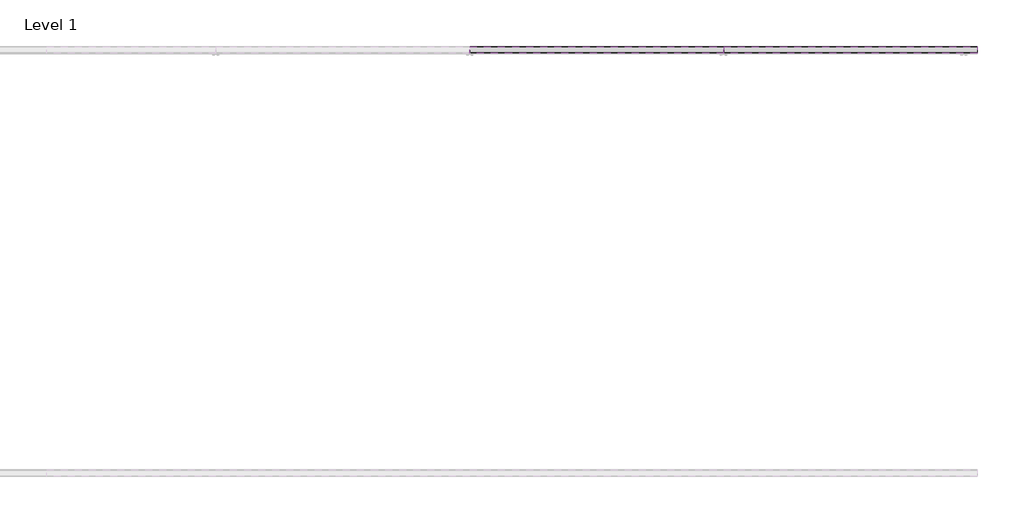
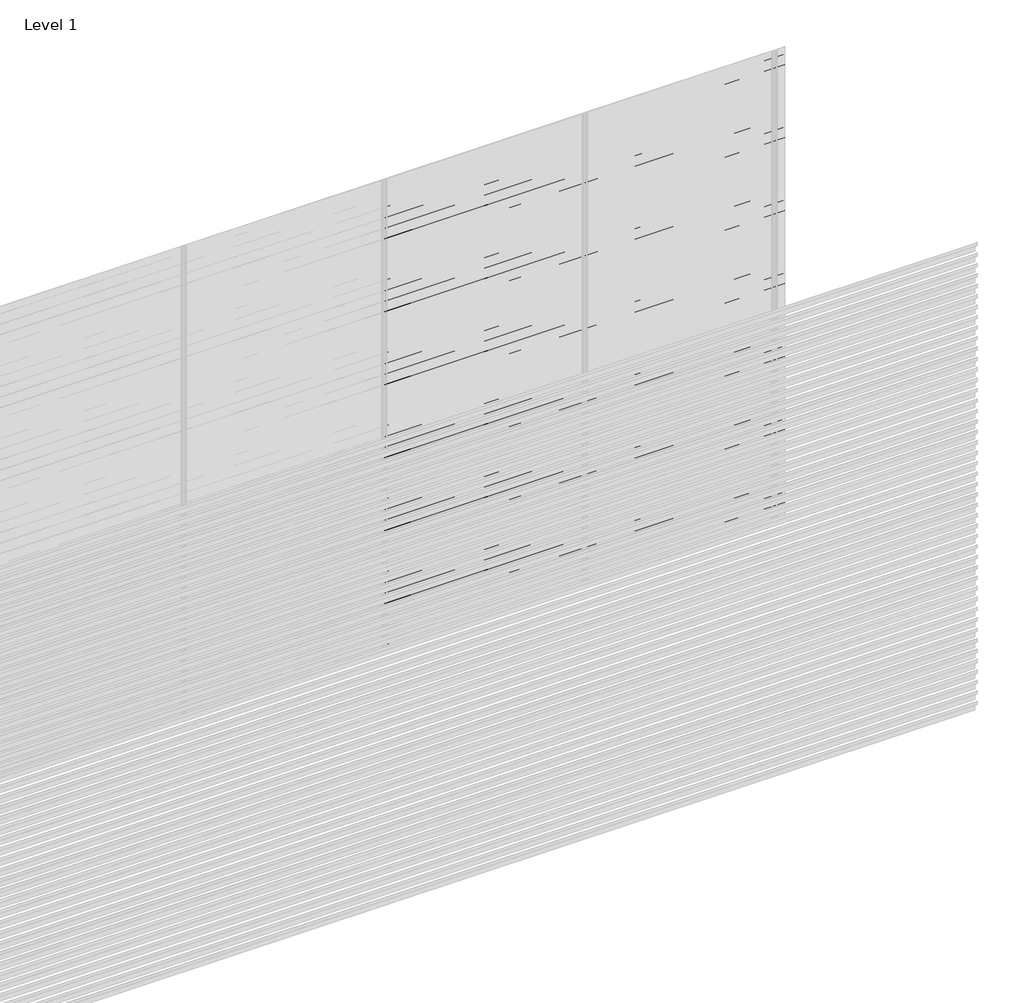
# One storey, part 33 of 33: 89 proxies.
"""IFC4 building model written with IfcOpenShell, lengths in millimetres."""

from ifc_helpers import new_model, si_unit, frame, origin, place, context, project, spatial, polyline, outline, extrude, element, save

model = new_model("IFC4")

# Units and contexts
model_context = context("Model", 3, world=origin())
ifc_project = project(units=[si_unit("LENGTHUNIT", "METRE", prefix="MILLI")], contexts=[model_context])

# Site, building, storey
site = spatial("IfcSite", under=ifc_project)
building = spatial("IfcBuilding", under=site)
storey = spatial("IfcBuildingStorey", under=building, Name="Level 1", Elevation=0.0)

# Proxies
placement = place(None, origin())
element("IfcBuildingElementProxy", 1, Name="Wall Sweeps", at=placement, inside=storey, context=model_context, shape_type="SweptSolid", body=[
    extrude(outline(polyline([(33.0, 2864.0), (33.0, 2831.0), (31.75, 2831.7216933), (31.75, 2863.2872415), (2.0, 2884.0588647), (2.0, 2904.0), (3.25, 2904.0), (3.25, 2884.7716232), (33.0, 2864.0)])), frame((3600.0, 0.0, 0.0), z_axis=(1.0, 0.0, 0.0), x_axis=(0.0, 1.0, 0.0)), (0.0, 0.0, 1.0), 1200.0),
])
element("IfcBuildingElementProxy", 2, Name="Wall Sweeps", at=placement, inside=storey, context=model_context, shape_type="SweptSolid", body=[
    extrude(outline(polyline([(33.0, 2798.0), (33.0, 2765.0), (31.75, 2765.7216933), (31.75, 2797.2872415), (2.0, 2818.0588647), (2.0, 2838.0), (3.25, 2838.0), (3.25, 2818.7716232), (33.0, 2798.0)])), frame((3600.0, 0.0, 0.0), z_axis=(1.0, 0.0, 0.0), x_axis=(0.0, 1.0, 0.0)), (0.0, 0.0, 1.0), 1200.0),
])
element("IfcBuildingElementProxy", 3, Name="Wall Sweeps", at=placement, inside=storey, context=model_context, shape_type="SweptSolid", body=[
    extrude(outline(polyline([(33.0, 2732.0), (33.0, 2699.0), (31.75, 2699.7216933), (31.75, 2731.2872415), (2.0, 2752.0588647), (2.0, 2772.0), (3.25, 2772.0), (3.25, 2752.7716232), (33.0, 2732.0)])), frame((3600.0, 0.0, 0.0), z_axis=(1.0, 0.0, 0.0), x_axis=(0.0, 1.0, 0.0)), (0.0, 0.0, 1.0), 1200.0),
])
element("IfcBuildingElementProxy", 4, Name="Wall Sweeps", at=placement, inside=storey, context=model_context, shape_type="SweptSolid", body=[
    extrude(outline(polyline([(33.0, 2666.0), (33.0, 2633.0), (31.75, 2633.7216933), (31.75, 2665.2872415), (2.0, 2686.0588647), (2.0, 2706.0), (3.25, 2706.0), (3.25, 2686.7716232), (33.0, 2666.0)])), frame((3600.0, 0.0, 0.0), z_axis=(1.0, 0.0, 0.0), x_axis=(0.0, 1.0, 0.0)), (0.0, 0.0, 1.0), 1200.0),
])
element("IfcBuildingElementProxy", 5, Name="Wall Sweeps", at=placement, inside=storey, context=model_context, shape_type="SweptSolid", body=[
    extrude(outline(polyline([(33.0, 2600.0), (33.0, 2567.0), (31.75, 2567.7216933), (31.75, 2599.2872415), (2.0, 2620.0588647), (2.0, 2640.0), (3.25, 2640.0), (3.25, 2620.7716232), (33.0, 2600.0)])), frame((3600.0, 0.0, 0.0), z_axis=(1.0, 0.0, 0.0), x_axis=(0.0, 1.0, 0.0)), (0.0, 0.0, 1.0), 1200.0),
])
element("IfcBuildingElementProxy", 6, Name="Wall Sweeps", at=placement, inside=storey, context=model_context, shape_type="SweptSolid", body=[
    extrude(outline(polyline([(33.0, 2534.0), (33.0, 2501.0), (31.75, 2501.7216933), (31.75, 2533.2872415), (2.0, 2554.0588647), (2.0, 2574.0), (3.25, 2574.0), (3.25, 2554.7716232), (33.0, 2534.0)])), frame((3600.0, 0.0, 0.0), z_axis=(1.0, 0.0, 0.0), x_axis=(0.0, 1.0, 0.0)), (0.0, 0.0, 1.0), 1200.0),
])
element("IfcBuildingElementProxy", 7, Name="Wall Sweeps", at=placement, inside=storey, context=model_context, shape_type="SweptSolid", body=[
    extrude(outline(polyline([(33.0, 2468.0), (33.0, 2435.0), (31.75, 2435.7216933), (31.75, 2467.2872415), (2.0, 2488.0588647), (2.0, 2508.0), (3.25, 2508.0), (3.25, 2488.7716232), (33.0, 2468.0)])), frame((3600.0, 0.0, 0.0), z_axis=(1.0, 0.0, 0.0), x_axis=(0.0, 1.0, 0.0)), (0.0, 0.0, 1.0), 1200.0),
])
element("IfcBuildingElementProxy", 8, Name="Wall Sweeps", at=placement, inside=storey, context=model_context, shape_type="SweptSolid", body=[
    extrude(outline(polyline([(33.0, 2402.0), (33.0, 2369.0), (31.75, 2369.7216933), (31.75, 2401.2872415), (2.0, 2422.0588647), (2.0, 2442.0), (3.25, 2442.0), (3.25, 2422.7716232), (33.0, 2402.0)])), frame((3600.0, 0.0, 0.0), z_axis=(1.0, 0.0, 0.0), x_axis=(0.0, 1.0, 0.0)), (0.0, 0.0, 1.0), 1200.0),
])
element("IfcBuildingElementProxy", 9, Name="Wall Sweeps", at=placement, inside=storey, context=model_context, shape_type="SweptSolid", body=[
    extrude(outline(polyline([(33.0, 2336.0), (33.0, 2303.0), (31.75, 2303.7216933), (31.75, 2335.2872415), (2.0, 2356.0588647), (2.0, 2376.0), (3.25, 2376.0), (3.25, 2356.7716232), (33.0, 2336.0)])), frame((3600.0, 0.0, 0.0), z_axis=(1.0, 0.0, 0.0), x_axis=(0.0, 1.0, 0.0)), (0.0, 0.0, 1.0), 1200.0),
])
element("IfcBuildingElementProxy", 10, Name="Wall Sweeps", at=placement, inside=storey, context=model_context, shape_type="SweptSolid", body=[
    extrude(outline(polyline([(33.0, 2270.0), (33.0, 2237.0), (31.75, 2237.7216933), (31.75, 2269.2872415), (2.0, 2290.0588647), (2.0, 2310.0), (3.25, 2310.0), (3.25, 2290.7716232), (33.0, 2270.0)])), frame((3600.0, 0.0, 0.0), z_axis=(1.0, 0.0, 0.0), x_axis=(0.0, 1.0, 0.0)), (0.0, 0.0, 1.0), 1200.0),
])
element("IfcBuildingElementProxy", 11, Name="Wall Sweeps", at=placement, inside=storey, context=model_context, shape_type="SweptSolid", body=[
    extrude(outline(polyline([(33.0, 2204.0), (33.0, 2171.0), (31.75, 2171.7216933), (31.75, 2203.2872415), (2.0, 2224.0588647), (2.0, 2244.0), (3.25, 2244.0), (3.25, 2224.7716232), (33.0, 2204.0)])), frame((3600.0, 0.0, 0.0), z_axis=(1.0, 0.0, 0.0), x_axis=(0.0, 1.0, 0.0)), (0.0, 0.0, 1.0), 1200.0),
])
element("IfcBuildingElementProxy", 12, Name="Wall Sweeps", at=placement, inside=storey, context=model_context, shape_type="SweptSolid", body=[
    extrude(outline(polyline([(33.0, 2138.0), (33.0, 2105.0), (31.75, 2105.7216933), (31.75, 2137.2872415), (2.0, 2158.0588647), (2.0, 2178.0), (3.25, 2178.0), (3.25, 2158.7716232), (33.0, 2138.0)])), frame((3600.0, 0.0, 0.0), z_axis=(1.0, 0.0, 0.0), x_axis=(0.0, 1.0, 0.0)), (0.0, 0.0, 1.0), 1200.0),
])
element("IfcBuildingElementProxy", 13, Name="Wall Sweeps", at=placement, inside=storey, context=model_context, shape_type="SweptSolid", body=[
    extrude(outline(polyline([(33.0, 2072.0), (33.0, 2039.0), (31.75, 2039.7216933), (31.75, 2071.2872415), (2.0, 2092.0588647), (2.0, 2112.0), (3.25, 2112.0), (3.25, 2092.7716232), (33.0, 2072.0)])), frame((3600.0, 0.0, 0.0), z_axis=(1.0, 0.0, 0.0), x_axis=(0.0, 1.0, 0.0)), (0.0, 0.0, 1.0), 1200.0),
])
element("IfcBuildingElementProxy", 14, Name="Wall Sweeps", at=placement, inside=storey, context=model_context, shape_type="SweptSolid", body=[
    extrude(outline(polyline([(33.0, 2006.0), (33.0, 1973.0), (31.75, 1973.7216933), (31.75, 2005.2872415), (2.0, 2026.0588647), (2.0, 2046.0), (3.25, 2046.0), (3.25, 2026.7716232), (33.0, 2006.0)])), frame((3600.0, 0.0, 0.0), z_axis=(1.0, 0.0, 0.0), x_axis=(0.0, 1.0, 0.0)), (0.0, 0.0, 1.0), 1200.0),
])
element("IfcBuildingElementProxy", 15, Name="Wall Sweeps", at=placement, inside=storey, context=model_context, shape_type="SweptSolid", body=[
    extrude(outline(polyline([(33.0, 1940.0), (33.0, 1907.0), (31.75, 1907.7216933), (31.75, 1939.2872415), (2.0, 1960.0588647), (2.0, 1980.0), (3.25, 1980.0), (3.25, 1960.7716232), (33.0, 1940.0)])), frame((3600.0, 0.0, 0.0), z_axis=(1.0, 0.0, 0.0), x_axis=(0.0, 1.0, 0.0)), (0.0, 0.0, 1.0), 1200.0),
])
element("IfcBuildingElementProxy", 16, Name="Wall Sweeps", at=placement, inside=storey, context=model_context, shape_type="SweptSolid", body=[
    extrude(outline(polyline([(33.0, 1874.0), (33.0, 1841.0), (31.75, 1841.7216933), (31.75, 1873.2872415), (2.0, 1894.0588647), (2.0, 1914.0), (3.25, 1914.0), (3.25, 1894.7716232), (33.0, 1874.0)])), frame((3600.0, 0.0, 0.0), z_axis=(1.0, 0.0, 0.0), x_axis=(0.0, 1.0, 0.0)), (0.0, 0.0, 1.0), 1200.0),
])
element("IfcBuildingElementProxy", 17, Name="Wall Sweeps", at=placement, inside=storey, context=model_context, shape_type="SweptSolid", body=[
    extrude(outline(polyline([(33.0, 1808.0), (33.0, 1775.0), (31.75, 1775.7216933), (31.75, 1807.2872415), (2.0, 1828.0588647), (2.0, 1848.0), (3.25, 1848.0), (3.25, 1828.7716232), (33.0, 1808.0)])), frame((3600.0, 0.0, 0.0), z_axis=(1.0, 0.0, 0.0), x_axis=(0.0, 1.0, 0.0)), (0.0, 0.0, 1.0), 1200.0),
])
element("IfcBuildingElementProxy", 18, Name="Wall Sweeps", at=placement, inside=storey, context=model_context, shape_type="SweptSolid", body=[
    extrude(outline(polyline([(33.0, 1742.0), (33.0, 1709.0), (31.75, 1709.7216933), (31.75, 1741.2872415), (2.0, 1762.0588647), (2.0, 1782.0), (3.25, 1782.0), (3.25, 1762.7716232), (33.0, 1742.0)])), frame((3600.0, 0.0, 0.0), z_axis=(1.0, 0.0, 0.0), x_axis=(0.0, 1.0, 0.0)), (0.0, 0.0, 1.0), 1200.0),
])
element("IfcBuildingElementProxy", 19, Name="Wall Sweeps", at=placement, inside=storey, context=model_context, shape_type="SweptSolid", body=[
    extrude(outline(polyline([(33.0, 1676.0), (33.0, 1643.0), (31.75, 1643.7216933), (31.75, 1675.2872415), (2.0, 1696.0588647), (2.0, 1716.0), (3.25, 1716.0), (3.25, 1696.7716232), (33.0, 1676.0)])), frame((3600.0, 0.0, 0.0), z_axis=(1.0, 0.0, 0.0), x_axis=(0.0, 1.0, 0.0)), (0.0, 0.0, 1.0), 1200.0),
])
element("IfcBuildingElementProxy", 20, Name="Wall Sweeps", at=placement, inside=storey, context=model_context, shape_type="SweptSolid", body=[
    extrude(outline(polyline([(33.0, 1610.0), (33.0, 1577.0), (31.75, 1577.7216933), (31.75, 1609.2872415), (2.0, 1630.0588647), (2.0, 1650.0), (3.25, 1650.0), (3.25, 1630.7716232), (33.0, 1610.0)])), frame((3600.0, 0.0, 0.0), z_axis=(1.0, 0.0, 0.0), x_axis=(0.0, 1.0, 0.0)), (0.0, 0.0, 1.0), 1200.0),
])
element("IfcBuildingElementProxy", 21, Name="Wall Sweeps", at=placement, inside=storey, context=model_context, shape_type="SweptSolid", body=[
    extrude(outline(polyline([(33.0, 1544.0), (33.0, 1511.0), (31.75, 1511.7216933), (31.75, 1543.2872415), (2.0, 1564.0588647), (2.0, 1584.0), (3.25, 1584.0), (3.25, 1564.7716232), (33.0, 1544.0)])), frame((3600.0, 0.0, 0.0), z_axis=(1.0, 0.0, 0.0), x_axis=(0.0, 1.0, 0.0)), (0.0, 0.0, 1.0), 1200.0),
])
element("IfcBuildingElementProxy", 22, Name="Wall Sweeps", at=placement, inside=storey, context=model_context, shape_type="SweptSolid", body=[
    extrude(outline(polyline([(33.0, 1478.0), (33.0, 1445.0), (31.75, 1445.7216933), (31.75, 1477.2872415), (2.0, 1498.0588647), (2.0, 1518.0), (3.25, 1518.0), (3.25, 1498.7716232), (33.0, 1478.0)])), frame((3600.0, 0.0, 0.0), z_axis=(1.0, 0.0, 0.0), x_axis=(0.0, 1.0, 0.0)), (0.0, 0.0, 1.0), 1200.0),
])
element("IfcBuildingElementProxy", 23, Name="Wall Sweeps", at=placement, inside=storey, context=model_context, shape_type="SweptSolid", body=[
    extrude(outline(polyline([(33.0, 1412.0), (33.0, 1379.0), (31.75, 1379.7216933), (31.75, 1411.2872415), (2.0, 1432.0588647), (2.0, 1452.0), (3.25, 1452.0), (3.25, 1432.7716232), (33.0, 1412.0)])), frame((3600.0, 0.0, 0.0), z_axis=(1.0, 0.0, 0.0), x_axis=(0.0, 1.0, 0.0)), (0.0, 0.0, 1.0), 1200.0),
])
element("IfcBuildingElementProxy", 24, Name="Wall Sweeps", at=placement, inside=storey, context=model_context, shape_type="SweptSolid", body=[
    extrude(outline(polyline([(33.0, 1346.0), (33.0, 1313.0), (31.75, 1313.7216933), (31.75, 1345.2872415), (2.0, 1366.0588647), (2.0, 1386.0), (3.25, 1386.0), (3.25, 1366.7716232), (33.0, 1346.0)])), frame((3600.0, 0.0, 0.0), z_axis=(1.0, 0.0, 0.0), x_axis=(0.0, 1.0, 0.0)), (0.0, 0.0, 1.0), 1200.0),
])
element("IfcBuildingElementProxy", 25, Name="Wall Sweeps", at=placement, inside=storey, context=model_context, shape_type="SweptSolid", body=[
    extrude(outline(polyline([(33.0, 1280.0), (33.0, 1247.0), (31.75, 1247.7216933), (31.75, 1279.2872415), (2.0, 1300.0588647), (2.0, 1320.0), (3.25, 1320.0), (3.25, 1300.7716232), (33.0, 1280.0)])), frame((3600.0, 0.0, 0.0), z_axis=(1.0, 0.0, 0.0), x_axis=(0.0, 1.0, 0.0)), (0.0, 0.0, 1.0), 1200.0),
])
element("IfcBuildingElementProxy", 26, Name="Wall Sweeps", at=placement, inside=storey, context=model_context, shape_type="SweptSolid", body=[
    extrude(outline(polyline([(33.0, 1214.0), (33.0, 1181.0), (31.75, 1181.7216933), (31.75, 1213.2872415), (2.0, 1234.0588647), (2.0, 1254.0), (3.25, 1254.0), (3.25, 1234.7716232), (33.0, 1214.0)])), frame((3600.0, 0.0, 0.0), z_axis=(1.0, 0.0, 0.0), x_axis=(0.0, 1.0, 0.0)), (0.0, 0.0, 1.0), 1200.0),
])
element("IfcBuildingElementProxy", 27, Name="Wall Sweeps", at=placement, inside=storey, context=model_context, shape_type="SweptSolid", body=[
    extrude(outline(polyline([(33.0, 1148.0), (33.0, 1115.0), (31.75, 1115.7216933), (31.75, 1147.2872415), (2.0, 1168.0588647), (2.0, 1188.0), (3.25, 1188.0), (3.25, 1168.7716232), (33.0, 1148.0)])), frame((3600.0, 0.0, 0.0), z_axis=(1.0, 0.0, 0.0), x_axis=(0.0, 1.0, 0.0)), (0.0, 0.0, 1.0), 1200.0),
])
element("IfcBuildingElementProxy", 28, Name="Wall Sweeps", at=placement, inside=storey, context=model_context, shape_type="SweptSolid", body=[
    extrude(outline(polyline([(33.0, 1082.0), (33.0, 1049.0), (31.75, 1049.7216933), (31.75, 1081.2872415), (2.0, 1102.0588647), (2.0, 1122.0), (3.25, 1122.0), (3.25, 1102.7716232), (33.0, 1082.0)])), frame((3600.0, 0.0, 0.0), z_axis=(1.0, 0.0, 0.0), x_axis=(0.0, 1.0, 0.0)), (0.0, 0.0, 1.0), 1200.0),
])
element("IfcBuildingElementProxy", 29, Name="Wall Sweeps", at=placement, inside=storey, context=model_context, shape_type="SweptSolid", body=[
    extrude(outline(polyline([(33.0, 1016.0), (33.0, 983.0), (31.75, 983.7216933), (31.75, 1015.2872415), (2.0, 1036.0588647), (2.0, 1056.0), (3.25, 1056.0), (3.25, 1036.7716232), (33.0, 1016.0)])), frame((3600.0, 0.0, 0.0), z_axis=(1.0, 0.0, 0.0), x_axis=(0.0, 1.0, 0.0)), (0.0, 0.0, 1.0), 1200.0),
])
element("IfcBuildingElementProxy", 30, Name="Wall Sweeps", at=placement, inside=storey, context=model_context, shape_type="SweptSolid", body=[
    extrude(outline(polyline([(33.0, 950.0), (33.0, 917.0), (31.75, 917.7216933), (31.75, 949.2872415), (2.0, 970.0588647), (2.0, 990.0), (3.25, 990.0), (3.25, 970.7716232), (33.0, 950.0)])), frame((3600.0, 0.0, 0.0), z_axis=(1.0, 0.0, 0.0), x_axis=(0.0, 1.0, 0.0)), (0.0, 0.0, 1.0), 1200.0),
])
element("IfcBuildingElementProxy", 31, Name="Wall Sweeps", at=placement, inside=storey, context=model_context, shape_type="SweptSolid", body=[
    extrude(outline(polyline([(33.0, 884.0), (33.0, 851.0), (31.75, 851.7216933), (31.75, 883.2872415), (2.0, 904.0588647), (2.0, 924.0), (3.25, 924.0), (3.25, 904.7716232), (33.0, 884.0)])), frame((3600.0, 0.0, 0.0), z_axis=(1.0, 0.0, 0.0), x_axis=(0.0, 1.0, 0.0)), (0.0, 0.0, 1.0), 1200.0),
])
element("IfcBuildingElementProxy", 32, Name="Wall Sweeps", at=placement, inside=storey, context=model_context, shape_type="SweptSolid", body=[
    extrude(outline(polyline([(33.0, 818.0), (33.0, 785.0), (31.75, 785.7216933), (31.75, 817.2872415), (2.0, 838.0588647), (2.0, 858.0), (3.25, 858.0), (3.25, 838.7716232), (33.0, 818.0)])), frame((3600.0, 0.0, 0.0), z_axis=(1.0, 0.0, 0.0), x_axis=(0.0, 1.0, 0.0)), (0.0, 0.0, 1.0), 1200.0),
])
element("IfcBuildingElementProxy", 33, Name="Wall Sweeps", at=placement, inside=storey, context=model_context, shape_type="SweptSolid", body=[
    extrude(outline(polyline([(33.0, 752.0), (33.0, 719.0), (31.75, 719.7216933), (31.75, 751.2872415), (2.0, 772.0588647), (2.0, 792.0), (3.25, 792.0), (3.25, 772.7716232), (33.0, 752.0)])), frame((3600.0, 0.0, 0.0), z_axis=(1.0, 0.0, 0.0), x_axis=(0.0, 1.0, 0.0)), (0.0, 0.0, 1.0), 1200.0),
])
element("IfcBuildingElementProxy", 34, Name="Wall Sweeps", at=placement, inside=storey, context=model_context, shape_type="SweptSolid", body=[
    extrude(outline(polyline([(33.0, 686.0), (33.0, 653.0), (31.75, 653.7216933), (31.75, 685.2872415), (2.0, 706.0588647), (2.0, 726.0), (3.25, 726.0), (3.25, 706.7716232), (33.0, 686.0)])), frame((3600.0, 0.0, 0.0), z_axis=(1.0, 0.0, 0.0), x_axis=(0.0, 1.0, 0.0)), (0.0, 0.0, 1.0), 1200.0),
])
element("IfcBuildingElementProxy", 35, Name="Wall Sweeps", at=placement, inside=storey, context=model_context, shape_type="SweptSolid", body=[
    extrude(outline(polyline([(33.0, 620.0), (33.0, 587.0), (31.75, 587.7216933), (31.75, 619.2872415), (2.0, 640.0588647), (2.0, 660.0), (3.25, 660.0), (3.25, 640.7716232), (33.0, 620.0)])), frame((3600.0, 0.0, 0.0), z_axis=(1.0, 0.0, 0.0), x_axis=(0.0, 1.0, 0.0)), (0.0, 0.0, 1.0), 1200.0),
])
element("IfcBuildingElementProxy", 36, Name="Wall Sweeps", at=placement, inside=storey, context=model_context, shape_type="SweptSolid", body=[
    extrude(outline(polyline([(33.0, 554.0), (33.0, 521.0), (31.75, 521.7216933), (31.75, 553.2872415), (2.0, 574.0588647), (2.0, 594.0), (3.25, 594.0), (3.25, 574.7716232), (33.0, 554.0)])), frame((3600.0, 0.0, 0.0), z_axis=(1.0, 0.0, 0.0), x_axis=(0.0, 1.0, 0.0)), (0.0, 0.0, 1.0), 1200.0),
])
element("IfcBuildingElementProxy", 37, Name="Wall Sweeps", at=placement, inside=storey, context=model_context, shape_type="SweptSolid", body=[
    extrude(outline(polyline([(33.0, 488.0), (33.0, 455.0), (31.75, 455.7216933), (31.75, 487.2872415), (2.0, 508.0588647), (2.0, 528.0), (3.25, 528.0), (3.25, 508.7716232), (33.0, 488.0)])), frame((3600.0, 0.0, 0.0), z_axis=(1.0, 0.0, 0.0), x_axis=(0.0, 1.0, 0.0)), (0.0, 0.0, 1.0), 1200.0),
])
element("IfcBuildingElementProxy", 38, Name="Wall Sweeps", at=placement, inside=storey, context=model_context, shape_type="SweptSolid", body=[
    extrude(outline(polyline([(33.0, 422.0), (33.0, 389.0), (31.75, 389.7216933), (31.75, 421.2872415), (2.0, 442.0588647), (2.0, 462.0), (3.25, 462.0), (3.25, 442.7716232), (33.0, 422.0)])), frame((3600.0, 0.0, 0.0), z_axis=(1.0, 0.0, 0.0), x_axis=(0.0, 1.0, 0.0)), (0.0, 0.0, 1.0), 1200.0),
])
element("IfcBuildingElementProxy", 39, Name="Wall Sweeps", at=placement, inside=storey, context=model_context, shape_type="SweptSolid", body=[
    extrude(outline(polyline([(33.0, 356.0), (33.0, 323.0), (31.75, 323.7216933), (31.75, 355.2872415), (2.0, 376.0588647), (2.0, 396.0), (3.25, 396.0), (3.25, 376.7716232), (33.0, 356.0)])), frame((3600.0, 0.0, 0.0), z_axis=(1.0, 0.0, 0.0), x_axis=(0.0, 1.0, 0.0)), (0.0, 0.0, 1.0), 1200.0),
])
element("IfcBuildingElementProxy", 40, Name="Wall Sweeps", at=placement, inside=storey, context=model_context, shape_type="SweptSolid", body=[
    extrude(outline(polyline([(33.0, 290.0), (33.0, 257.0), (31.75, 257.7216933), (31.75, 289.2872415), (2.0, 310.0588647), (2.0, 330.0), (3.25, 330.0), (3.25, 310.7716232), (33.0, 290.0)])), frame((3600.0, 0.0, 0.0), z_axis=(1.0, 0.0, 0.0), x_axis=(0.0, 1.0, 0.0)), (0.0, 0.0, 1.0), 1200.0),
])
element("IfcBuildingElementProxy", 41, Name="Wall Sweeps", at=placement, inside=storey, context=model_context, shape_type="SweptSolid", body=[
    extrude(outline(polyline([(33.0, 224.0), (33.0, 191.0), (31.75, 191.7216933), (31.75, 223.2872415), (2.0, 244.0588647), (2.0, 264.0), (3.25, 264.0), (3.25, 244.7716232), (33.0, 224.0)])), frame((3600.0, 0.0, 0.0), z_axis=(1.0, 0.0, 0.0), x_axis=(0.0, 1.0, 0.0)), (0.0, 0.0, 1.0), 1200.0),
])
element("IfcBuildingElementProxy", 42, Name="Wall Sweeps", at=placement, inside=storey, context=model_context, shape_type="SweptSolid", body=[
    extrude(outline(polyline([(33.0, 158.0), (33.0, 125.0), (31.75, 125.7216933), (31.75, 157.2872415), (2.0, 178.0588647), (2.0, 198.0), (3.25, 198.0), (3.25, 178.7716232), (33.0, 158.0)])), frame((3600.0, 0.0, 0.0), z_axis=(1.0, 0.0, 0.0), x_axis=(0.0, 1.0, 0.0)), (0.0, 0.0, 1.0), 1200.0),
])
element("IfcBuildingElementProxy", 43, Name="Wall Sweeps", at=placement, inside=storey, context=model_context, shape_type="SweptSolid", body=[
    extrude(outline(polyline([(33.0, 92.0), (33.0, 59.0), (31.75, 59.7216933), (31.75, 91.2872415), (2.0, 112.0588647), (2.0, 132.0), (3.25, 132.0), (3.25, 112.7716232), (33.0, 92.0)])), frame((3600.0, 0.0, 0.0), z_axis=(1.0, 0.0, 0.0), x_axis=(0.0, 1.0, 0.0)), (0.0, 0.0, 1.0), 1200.0),
])
element("IfcBuildingElementProxy", 44, Name="Wall Sweeps", at=placement, inside=storey, context=model_context, shape_type="SweptSolid", body=[
    extrude(outline(polyline([(33.0, 26.0), (33.0, -7.0), (31.75, -6.2783067), (31.75, 25.2872415), (2.0, 46.0588647), (2.0, 66.0), (3.25, 66.0), (3.25, 46.7716232), (33.0, 26.0)])), frame((3600.0, 0.0, 0.0), z_axis=(1.0, 0.0, 0.0), x_axis=(0.0, 1.0, 0.0)), (0.0, 0.0, 1.0), 1200.0),
])
element("IfcBuildingElementProxy", 45, Name="Wall Sweeps", at=placement, inside=storey, context=model_context, shape_type="SweptSolid", body=[
    extrude(outline(polyline([(33.0, 2930.0), (33.0, 2897.0), (31.75, 2897.7216933), (31.75, 2929.2872415), (2.0, 2950.0588647), (2.0, 2970.0), (3.25, 2970.0), (3.25, 2950.7716232), (33.0, 2930.0)])), frame((4800.0, 0.0, 0.0), z_axis=(1.0, 0.0, 0.0), x_axis=(0.0, 1.0, 0.0)), (0.0, 0.0, 1.0), 1200.0),
])
element("IfcBuildingElementProxy", 46, Name="Wall Sweeps", at=placement, inside=storey, context=model_context, shape_type="SweptSolid", body=[
    extrude(outline(polyline([(33.0, 2864.0), (33.0, 2831.0), (31.75, 2831.7216933), (31.75, 2863.2872415), (2.0, 2884.0588647), (2.0, 2904.0), (3.25, 2904.0), (3.25, 2884.7716232), (33.0, 2864.0)])), frame((4800.0, 0.0, 0.0), z_axis=(1.0, 0.0, 0.0), x_axis=(0.0, 1.0, 0.0)), (0.0, 0.0, 1.0), 1200.0),
])
element("IfcBuildingElementProxy", 47, Name="Wall Sweeps", at=placement, inside=storey, context=model_context, shape_type="SweptSolid", body=[
    extrude(outline(polyline([(33.0, 2798.0), (33.0, 2765.0), (31.75, 2765.7216933), (31.75, 2797.2872415), (2.0, 2818.0588647), (2.0, 2838.0), (3.25, 2838.0), (3.25, 2818.7716232), (33.0, 2798.0)])), frame((4800.0, 0.0, 0.0), z_axis=(1.0, 0.0, 0.0), x_axis=(0.0, 1.0, 0.0)), (0.0, 0.0, 1.0), 1200.0),
])
element("IfcBuildingElementProxy", 48, Name="Wall Sweeps", at=placement, inside=storey, context=model_context, shape_type="SweptSolid", body=[
    extrude(outline(polyline([(33.0, 2732.0), (33.0, 2699.0), (31.75, 2699.7216933), (31.75, 2731.2872415), (2.0, 2752.0588647), (2.0, 2772.0), (3.25, 2772.0), (3.25, 2752.7716232), (33.0, 2732.0)])), frame((4800.0, 0.0, 0.0), z_axis=(1.0, 0.0, 0.0), x_axis=(0.0, 1.0, 0.0)), (0.0, 0.0, 1.0), 1200.0),
])
element("IfcBuildingElementProxy", 49, Name="Wall Sweeps", at=placement, inside=storey, context=model_context, shape_type="SweptSolid", body=[
    extrude(outline(polyline([(33.0, 2666.0), (33.0, 2633.0), (31.75, 2633.7216933), (31.75, 2665.2872415), (2.0, 2686.0588647), (2.0, 2706.0), (3.25, 2706.0), (3.25, 2686.7716232), (33.0, 2666.0)])), frame((4800.0, 0.0, 0.0), z_axis=(1.0, 0.0, 0.0), x_axis=(0.0, 1.0, 0.0)), (0.0, 0.0, 1.0), 1200.0),
])
element("IfcBuildingElementProxy", 50, Name="Wall Sweeps", at=placement, inside=storey, context=model_context, shape_type="SweptSolid", body=[
    extrude(outline(polyline([(33.0, 2600.0), (33.0, 2567.0), (31.75, 2567.7216933), (31.75, 2599.2872415), (2.0, 2620.0588647), (2.0, 2640.0), (3.25, 2640.0), (3.25, 2620.7716232), (33.0, 2600.0)])), frame((4800.0, 0.0, 0.0), z_axis=(1.0, 0.0, 0.0), x_axis=(0.0, 1.0, 0.0)), (0.0, 0.0, 1.0), 1200.0),
])
element("IfcBuildingElementProxy", 51, Name="Wall Sweeps", at=placement, inside=storey, context=model_context, shape_type="SweptSolid", body=[
    extrude(outline(polyline([(33.0, 2534.0), (33.0, 2501.0), (31.75, 2501.7216933), (31.75, 2533.2872415), (2.0, 2554.0588647), (2.0, 2574.0), (3.25, 2574.0), (3.25, 2554.7716232), (33.0, 2534.0)])), frame((4800.0, 0.0, 0.0), z_axis=(1.0, 0.0, 0.0), x_axis=(0.0, 1.0, 0.0)), (0.0, 0.0, 1.0), 1200.0),
])
element("IfcBuildingElementProxy", 52, Name="Wall Sweeps", at=placement, inside=storey, context=model_context, shape_type="SweptSolid", body=[
    extrude(outline(polyline([(33.0, 2468.0), (33.0, 2435.0), (31.75, 2435.7216933), (31.75, 2467.2872415), (2.0, 2488.0588647), (2.0, 2508.0), (3.25, 2508.0), (3.25, 2488.7716232), (33.0, 2468.0)])), frame((4800.0, 0.0, 0.0), z_axis=(1.0, 0.0, 0.0), x_axis=(0.0, 1.0, 0.0)), (0.0, 0.0, 1.0), 1200.0),
])
element("IfcBuildingElementProxy", 53, Name="Wall Sweeps", at=placement, inside=storey, context=model_context, shape_type="SweptSolid", body=[
    extrude(outline(polyline([(33.0, 2402.0), (33.0, 2369.0), (31.75, 2369.7216933), (31.75, 2401.2872415), (2.0, 2422.0588647), (2.0, 2442.0), (3.25, 2442.0), (3.25, 2422.7716232), (33.0, 2402.0)])), frame((4800.0, 0.0, 0.0), z_axis=(1.0, 0.0, 0.0), x_axis=(0.0, 1.0, 0.0)), (0.0, 0.0, 1.0), 1200.0),
])
element("IfcBuildingElementProxy", 54, Name="Wall Sweeps", at=placement, inside=storey, context=model_context, shape_type="SweptSolid", body=[
    extrude(outline(polyline([(33.0, 2336.0), (33.0, 2303.0), (31.75, 2303.7216933), (31.75, 2335.2872415), (2.0, 2356.0588647), (2.0, 2376.0), (3.25, 2376.0), (3.25, 2356.7716232), (33.0, 2336.0)])), frame((4800.0, 0.0, 0.0), z_axis=(1.0, 0.0, 0.0), x_axis=(0.0, 1.0, 0.0)), (0.0, 0.0, 1.0), 1200.0),
])
element("IfcBuildingElementProxy", 55, Name="Wall Sweeps", at=placement, inside=storey, context=model_context, shape_type="SweptSolid", body=[
    extrude(outline(polyline([(33.0, 2270.0), (33.0, 2237.0), (31.75, 2237.7216933), (31.75, 2269.2872415), (2.0, 2290.0588647), (2.0, 2310.0), (3.25, 2310.0), (3.25, 2290.7716232), (33.0, 2270.0)])), frame((4800.0, 0.0, 0.0), z_axis=(1.0, 0.0, 0.0), x_axis=(0.0, 1.0, 0.0)), (0.0, 0.0, 1.0), 1200.0),
])
element("IfcBuildingElementProxy", 56, Name="Wall Sweeps", at=placement, inside=storey, context=model_context, shape_type="SweptSolid", body=[
    extrude(outline(polyline([(33.0, 2204.0), (33.0, 2171.0), (31.75, 2171.7216933), (31.75, 2203.2872415), (2.0, 2224.0588647), (2.0, 2244.0), (3.25, 2244.0), (3.25, 2224.7716232), (33.0, 2204.0)])), frame((4800.0, 0.0, 0.0), z_axis=(1.0, 0.0, 0.0), x_axis=(0.0, 1.0, 0.0)), (0.0, 0.0, 1.0), 1200.0),
])
element("IfcBuildingElementProxy", 57, Name="Wall Sweeps", at=placement, inside=storey, context=model_context, shape_type="SweptSolid", body=[
    extrude(outline(polyline([(33.0, 2138.0), (33.0, 2105.0), (31.75, 2105.7216933), (31.75, 2137.2872415), (2.0, 2158.0588647), (2.0, 2178.0), (3.25, 2178.0), (3.25, 2158.7716232), (33.0, 2138.0)])), frame((4800.0, 0.0, 0.0), z_axis=(1.0, 0.0, 0.0), x_axis=(0.0, 1.0, 0.0)), (0.0, 0.0, 1.0), 1200.0),
])
element("IfcBuildingElementProxy", 58, Name="Wall Sweeps", at=placement, inside=storey, context=model_context, shape_type="SweptSolid", body=[
    extrude(outline(polyline([(33.0, 2072.0), (33.0, 2039.0), (31.75, 2039.7216933), (31.75, 2071.2872415), (2.0, 2092.0588647), (2.0, 2112.0), (3.25, 2112.0), (3.25, 2092.7716232), (33.0, 2072.0)])), frame((4800.0, 0.0, 0.0), z_axis=(1.0, 0.0, 0.0), x_axis=(0.0, 1.0, 0.0)), (0.0, 0.0, 1.0), 1200.0),
])
element("IfcBuildingElementProxy", 59, Name="Wall Sweeps", at=placement, inside=storey, context=model_context, shape_type="SweptSolid", body=[
    extrude(outline(polyline([(33.0, 2006.0), (33.0, 1973.0), (31.75, 1973.7216933), (31.75, 2005.2872415), (2.0, 2026.0588647), (2.0, 2046.0), (3.25, 2046.0), (3.25, 2026.7716232), (33.0, 2006.0)])), frame((4800.0, 0.0, 0.0), z_axis=(1.0, 0.0, 0.0), x_axis=(0.0, 1.0, 0.0)), (0.0, 0.0, 1.0), 1200.0),
])
element("IfcBuildingElementProxy", 60, Name="Wall Sweeps", at=placement, inside=storey, context=model_context, shape_type="SweptSolid", body=[
    extrude(outline(polyline([(33.0, 1940.0), (33.0, 1907.0), (31.75, 1907.7216933), (31.75, 1939.2872415), (2.0, 1960.0588647), (2.0, 1980.0), (3.25, 1980.0), (3.25, 1960.7716232), (33.0, 1940.0)])), frame((4800.0, 0.0, 0.0), z_axis=(1.0, 0.0, 0.0), x_axis=(0.0, 1.0, 0.0)), (0.0, 0.0, 1.0), 1200.0),
])
element("IfcBuildingElementProxy", 61, Name="Wall Sweeps", at=placement, inside=storey, context=model_context, shape_type="SweptSolid", body=[
    extrude(outline(polyline([(33.0, 1874.0), (33.0, 1841.0), (31.75, 1841.7216933), (31.75, 1873.2872415), (2.0, 1894.0588647), (2.0, 1914.0), (3.25, 1914.0), (3.25, 1894.7716232), (33.0, 1874.0)])), frame((4800.0, 0.0, 0.0), z_axis=(1.0, 0.0, 0.0), x_axis=(0.0, 1.0, 0.0)), (0.0, 0.0, 1.0), 1200.0),
])
element("IfcBuildingElementProxy", 62, Name="Wall Sweeps", at=placement, inside=storey, context=model_context, shape_type="SweptSolid", body=[
    extrude(outline(polyline([(33.0, 1808.0), (33.0, 1775.0), (31.75, 1775.7216933), (31.75, 1807.2872415), (2.0, 1828.0588647), (2.0, 1848.0), (3.25, 1848.0), (3.25, 1828.7716232), (33.0, 1808.0)])), frame((4800.0, 0.0, 0.0), z_axis=(1.0, 0.0, 0.0), x_axis=(0.0, 1.0, 0.0)), (0.0, 0.0, 1.0), 1200.0),
])
element("IfcBuildingElementProxy", 63, Name="Wall Sweeps", at=placement, inside=storey, context=model_context, shape_type="SweptSolid", body=[
    extrude(outline(polyline([(33.0, 1742.0), (33.0, 1709.0), (31.75, 1709.7216933), (31.75, 1741.2872415), (2.0, 1762.0588647), (2.0, 1782.0), (3.25, 1782.0), (3.25, 1762.7716232), (33.0, 1742.0)])), frame((4800.0, 0.0, 0.0), z_axis=(1.0, 0.0, 0.0), x_axis=(0.0, 1.0, 0.0)), (0.0, 0.0, 1.0), 1200.0),
])
element("IfcBuildingElementProxy", 64, Name="Wall Sweeps", at=placement, inside=storey, context=model_context, shape_type="SweptSolid", body=[
    extrude(outline(polyline([(33.0, 1676.0), (33.0, 1643.0), (31.75, 1643.7216933), (31.75, 1675.2872415), (2.0, 1696.0588647), (2.0, 1716.0), (3.25, 1716.0), (3.25, 1696.7716232), (33.0, 1676.0)])), frame((4800.0, 0.0, 0.0), z_axis=(1.0, 0.0, 0.0), x_axis=(0.0, 1.0, 0.0)), (0.0, 0.0, 1.0), 1200.0),
])
element("IfcBuildingElementProxy", 65, Name="Wall Sweeps", at=placement, inside=storey, context=model_context, shape_type="SweptSolid", body=[
    extrude(outline(polyline([(33.0, 1610.0), (33.0, 1577.0), (31.75, 1577.7216933), (31.75, 1609.2872415), (2.0, 1630.0588647), (2.0, 1650.0), (3.25, 1650.0), (3.25, 1630.7716232), (33.0, 1610.0)])), frame((4800.0, 0.0, 0.0), z_axis=(1.0, 0.0, 0.0), x_axis=(0.0, 1.0, 0.0)), (0.0, 0.0, 1.0), 1200.0),
])
element("IfcBuildingElementProxy", 66, Name="Wall Sweeps", at=placement, inside=storey, context=model_context, shape_type="SweptSolid", body=[
    extrude(outline(polyline([(33.0, 1544.0), (33.0, 1511.0), (31.75, 1511.7216933), (31.75, 1543.2872415), (2.0, 1564.0588647), (2.0, 1584.0), (3.25, 1584.0), (3.25, 1564.7716232), (33.0, 1544.0)])), frame((4800.0, 0.0, 0.0), z_axis=(1.0, 0.0, 0.0), x_axis=(0.0, 1.0, 0.0)), (0.0, 0.0, 1.0), 1200.0),
])
element("IfcBuildingElementProxy", 67, Name="Wall Sweeps", at=placement, inside=storey, context=model_context, shape_type="SweptSolid", body=[
    extrude(outline(polyline([(33.0, 1478.0), (33.0, 1445.0), (31.75, 1445.7216933), (31.75, 1477.2872415), (2.0, 1498.0588647), (2.0, 1518.0), (3.25, 1518.0), (3.25, 1498.7716232), (33.0, 1478.0)])), frame((4800.0, 0.0, 0.0), z_axis=(1.0, 0.0, 0.0), x_axis=(0.0, 1.0, 0.0)), (0.0, 0.0, 1.0), 1200.0),
])
element("IfcBuildingElementProxy", 68, Name="Wall Sweeps", at=placement, inside=storey, context=model_context, shape_type="SweptSolid", body=[
    extrude(outline(polyline([(33.0, 1412.0), (33.0, 1379.0), (31.75, 1379.7216933), (31.75, 1411.2872415), (2.0, 1432.0588647), (2.0, 1452.0), (3.25, 1452.0), (3.25, 1432.7716232), (33.0, 1412.0)])), frame((4800.0, 0.0, 0.0), z_axis=(1.0, 0.0, 0.0), x_axis=(0.0, 1.0, 0.0)), (0.0, 0.0, 1.0), 1200.0),
])
element("IfcBuildingElementProxy", 69, Name="Wall Sweeps", at=placement, inside=storey, context=model_context, shape_type="SweptSolid", body=[
    extrude(outline(polyline([(33.0, 1346.0), (33.0, 1313.0), (31.75, 1313.7216933), (31.75, 1345.2872415), (2.0, 1366.0588647), (2.0, 1386.0), (3.25, 1386.0), (3.25, 1366.7716232), (33.0, 1346.0)])), frame((4800.0, 0.0, 0.0), z_axis=(1.0, 0.0, 0.0), x_axis=(0.0, 1.0, 0.0)), (0.0, 0.0, 1.0), 1200.0),
])
element("IfcBuildingElementProxy", 70, Name="Wall Sweeps", at=placement, inside=storey, context=model_context, shape_type="SweptSolid", body=[
    extrude(outline(polyline([(33.0, 1280.0), (33.0, 1247.0), (31.75, 1247.7216933), (31.75, 1279.2872415), (2.0, 1300.0588647), (2.0, 1320.0), (3.25, 1320.0), (3.25, 1300.7716232), (33.0, 1280.0)])), frame((4800.0, 0.0, 0.0), z_axis=(1.0, 0.0, 0.0), x_axis=(0.0, 1.0, 0.0)), (0.0, 0.0, 1.0), 1200.0),
])
element("IfcBuildingElementProxy", 71, Name="Wall Sweeps", at=placement, inside=storey, context=model_context, shape_type="SweptSolid", body=[
    extrude(outline(polyline([(33.0, 1214.0), (33.0, 1181.0), (31.75, 1181.7216933), (31.75, 1213.2872415), (2.0, 1234.0588647), (2.0, 1254.0), (3.25, 1254.0), (3.25, 1234.7716232), (33.0, 1214.0)])), frame((4800.0, 0.0, 0.0), z_axis=(1.0, 0.0, 0.0), x_axis=(0.0, 1.0, 0.0)), (0.0, 0.0, 1.0), 1200.0),
])
element("IfcBuildingElementProxy", 72, Name="Wall Sweeps", at=placement, inside=storey, context=model_context, shape_type="SweptSolid", body=[
    extrude(outline(polyline([(33.0, 1148.0), (33.0, 1115.0), (31.75, 1115.7216933), (31.75, 1147.2872415), (2.0, 1168.0588647), (2.0, 1188.0), (3.25, 1188.0), (3.25, 1168.7716232), (33.0, 1148.0)])), frame((4800.0, 0.0, 0.0), z_axis=(1.0, 0.0, 0.0), x_axis=(0.0, 1.0, 0.0)), (0.0, 0.0, 1.0), 1200.0),
])
element("IfcBuildingElementProxy", 73, Name="Wall Sweeps", at=placement, inside=storey, context=model_context, shape_type="SweptSolid", body=[
    extrude(outline(polyline([(33.0, 1082.0), (33.0, 1049.0), (31.75, 1049.7216933), (31.75, 1081.2872415), (2.0, 1102.0588647), (2.0, 1122.0), (3.25, 1122.0), (3.25, 1102.7716232), (33.0, 1082.0)])), frame((4800.0, 0.0, 0.0), z_axis=(1.0, 0.0, 0.0), x_axis=(0.0, 1.0, 0.0)), (0.0, 0.0, 1.0), 1200.0),
])
element("IfcBuildingElementProxy", 74, Name="Wall Sweeps", at=placement, inside=storey, context=model_context, shape_type="SweptSolid", body=[
    extrude(outline(polyline([(33.0, 1016.0), (33.0, 983.0), (31.75, 983.7216933), (31.75, 1015.2872415), (2.0, 1036.0588647), (2.0, 1056.0), (3.25, 1056.0), (3.25, 1036.7716232), (33.0, 1016.0)])), frame((4800.0, 0.0, 0.0), z_axis=(1.0, 0.0, 0.0), x_axis=(0.0, 1.0, 0.0)), (0.0, 0.0, 1.0), 1200.0),
])
element("IfcBuildingElementProxy", 75, Name="Wall Sweeps", at=placement, inside=storey, context=model_context, shape_type="SweptSolid", body=[
    extrude(outline(polyline([(33.0, 950.0), (33.0, 917.0), (31.75, 917.7216933), (31.75, 949.2872415), (2.0, 970.0588647), (2.0, 990.0), (3.25, 990.0), (3.25, 970.7716232), (33.0, 950.0)])), frame((4800.0, 0.0, 0.0), z_axis=(1.0, 0.0, 0.0), x_axis=(0.0, 1.0, 0.0)), (0.0, 0.0, 1.0), 1200.0),
])
element("IfcBuildingElementProxy", 76, Name="Wall Sweeps", at=placement, inside=storey, context=model_context, shape_type="SweptSolid", body=[
    extrude(outline(polyline([(33.0, 884.0), (33.0, 851.0), (31.75, 851.7216933), (31.75, 883.2872415), (2.0, 904.0588647), (2.0, 924.0), (3.25, 924.0), (3.25, 904.7716232), (33.0, 884.0)])), frame((4800.0, 0.0, 0.0), z_axis=(1.0, 0.0, 0.0), x_axis=(0.0, 1.0, 0.0)), (0.0, 0.0, 1.0), 1200.0),
])
element("IfcBuildingElementProxy", 77, Name="Wall Sweeps", at=placement, inside=storey, context=model_context, shape_type="SweptSolid", body=[
    extrude(outline(polyline([(33.0, 818.0), (33.0, 785.0), (31.75, 785.7216933), (31.75, 817.2872415), (2.0, 838.0588647), (2.0, 858.0), (3.25, 858.0), (3.25, 838.7716232), (33.0, 818.0)])), frame((4800.0, 0.0, 0.0), z_axis=(1.0, 0.0, 0.0), x_axis=(0.0, 1.0, 0.0)), (0.0, 0.0, 1.0), 1200.0),
])
element("IfcBuildingElementProxy", 78, Name="Wall Sweeps", at=placement, inside=storey, context=model_context, shape_type="SweptSolid", body=[
    extrude(outline(polyline([(33.0, 752.0), (33.0, 719.0), (31.75, 719.7216933), (31.75, 751.2872415), (2.0, 772.0588647), (2.0, 792.0), (3.25, 792.0), (3.25, 772.7716232), (33.0, 752.0)])), frame((4800.0, 0.0, 0.0), z_axis=(1.0, 0.0, 0.0), x_axis=(0.0, 1.0, 0.0)), (0.0, 0.0, 1.0), 1200.0),
])
element("IfcBuildingElementProxy", 79, Name="Wall Sweeps", at=placement, inside=storey, context=model_context, shape_type="SweptSolid", body=[
    extrude(outline(polyline([(33.0, 686.0), (33.0, 653.0), (31.75, 653.7216933), (31.75, 685.2872415), (2.0, 706.0588647), (2.0, 726.0), (3.25, 726.0), (3.25, 706.7716232), (33.0, 686.0)])), frame((4800.0, 0.0, 0.0), z_axis=(1.0, 0.0, 0.0), x_axis=(0.0, 1.0, 0.0)), (0.0, 0.0, 1.0), 1200.0),
])
element("IfcBuildingElementProxy", 80, Name="Wall Sweeps", at=placement, inside=storey, context=model_context, shape_type="SweptSolid", body=[
    extrude(outline(polyline([(33.0, 620.0), (33.0, 587.0), (31.75, 587.7216933), (31.75, 619.2872415), (2.0, 640.0588647), (2.0, 660.0), (3.25, 660.0), (3.25, 640.7716232), (33.0, 620.0)])), frame((4800.0, 0.0, 0.0), z_axis=(1.0, 0.0, 0.0), x_axis=(0.0, 1.0, 0.0)), (0.0, 0.0, 1.0), 1200.0),
])
element("IfcBuildingElementProxy", 81, Name="Wall Sweeps", at=placement, inside=storey, context=model_context, shape_type="SweptSolid", body=[
    extrude(outline(polyline([(33.0, 554.0), (33.0, 521.0), (31.75, 521.7216933), (31.75, 553.2872415), (2.0, 574.0588647), (2.0, 594.0), (3.25, 594.0), (3.25, 574.7716232), (33.0, 554.0)])), frame((4800.0, 0.0, 0.0), z_axis=(1.0, 0.0, 0.0), x_axis=(0.0, 1.0, 0.0)), (0.0, 0.0, 1.0), 1200.0),
])
element("IfcBuildingElementProxy", 82, Name="Wall Sweeps", at=placement, inside=storey, context=model_context, shape_type="SweptSolid", body=[
    extrude(outline(polyline([(33.0, 488.0), (33.0, 455.0), (31.75, 455.7216933), (31.75, 487.2872415), (2.0, 508.0588647), (2.0, 528.0), (3.25, 528.0), (3.25, 508.7716232), (33.0, 488.0)])), frame((4800.0, 0.0, 0.0), z_axis=(1.0, 0.0, 0.0), x_axis=(0.0, 1.0, 0.0)), (0.0, 0.0, 1.0), 1200.0),
])
element("IfcBuildingElementProxy", 83, Name="Wall Sweeps", at=placement, inside=storey, context=model_context, shape_type="SweptSolid", body=[
    extrude(outline(polyline([(33.0, 422.0), (33.0, 389.0), (31.75, 389.7216933), (31.75, 421.2872415), (2.0, 442.0588647), (2.0, 462.0), (3.25, 462.0), (3.25, 442.7716232), (33.0, 422.0)])), frame((4800.0, 0.0, 0.0), z_axis=(1.0, 0.0, 0.0), x_axis=(0.0, 1.0, 0.0)), (0.0, 0.0, 1.0), 1200.0),
])
element("IfcBuildingElementProxy", 84, Name="Wall Sweeps", at=placement, inside=storey, context=model_context, shape_type="SweptSolid", body=[
    extrude(outline(polyline([(33.0, 356.0), (33.0, 323.0), (31.75, 323.7216933), (31.75, 355.2872415), (2.0, 376.0588647), (2.0, 396.0), (3.25, 396.0), (3.25, 376.7716232), (33.0, 356.0)])), frame((4800.0, 0.0, 0.0), z_axis=(1.0, 0.0, 0.0), x_axis=(0.0, 1.0, 0.0)), (0.0, 0.0, 1.0), 1200.0),
])
element("IfcBuildingElementProxy", 85, Name="Wall Sweeps", at=placement, inside=storey, context=model_context, shape_type="SweptSolid", body=[
    extrude(outline(polyline([(33.0, 290.0), (33.0, 257.0), (31.75, 257.7216933), (31.75, 289.2872415), (2.0, 310.0588647), (2.0, 330.0), (3.25, 330.0), (3.25, 310.7716232), (33.0, 290.0)])), frame((4800.0, 0.0, 0.0), z_axis=(1.0, 0.0, 0.0), x_axis=(0.0, 1.0, 0.0)), (0.0, 0.0, 1.0), 1200.0),
])
element("IfcBuildingElementProxy", 86, Name="Wall Sweeps", at=placement, inside=storey, context=model_context, shape_type="SweptSolid", body=[
    extrude(outline(polyline([(33.0, 224.0), (33.0, 191.0), (31.75, 191.7216933), (31.75, 223.2872415), (2.0, 244.0588647), (2.0, 264.0), (3.25, 264.0), (3.25, 244.7716232), (33.0, 224.0)])), frame((4800.0, 0.0, 0.0), z_axis=(1.0, 0.0, 0.0), x_axis=(0.0, 1.0, 0.0)), (0.0, 0.0, 1.0), 1200.0),
])
element("IfcBuildingElementProxy", 87, Name="Wall Sweeps", at=placement, inside=storey, context=model_context, shape_type="SweptSolid", body=[
    extrude(outline(polyline([(33.0, 158.0), (33.0, 125.0), (31.75, 125.7216933), (31.75, 157.2872415), (2.0, 178.0588647), (2.0, 198.0), (3.25, 198.0), (3.25, 178.7716232), (33.0, 158.0)])), frame((4800.0, 0.0, 0.0), z_axis=(1.0, 0.0, 0.0), x_axis=(0.0, 1.0, 0.0)), (0.0, 0.0, 1.0), 1200.0),
])
element("IfcBuildingElementProxy", 88, Name="Wall Sweeps", at=placement, inside=storey, context=model_context, shape_type="SweptSolid", body=[
    extrude(outline(polyline([(33.0, 92.0), (33.0, 59.0), (31.75, 59.7216933), (31.75, 91.2872415), (2.0, 112.0588647), (2.0, 132.0), (3.25, 132.0), (3.25, 112.7716232), (33.0, 92.0)])), frame((4800.0, 0.0, 0.0), z_axis=(1.0, 0.0, 0.0), x_axis=(0.0, 1.0, 0.0)), (0.0, 0.0, 1.0), 1200.0),
])
element("IfcBuildingElementProxy", 89, Name="Wall Sweeps", at=placement, inside=storey, context=model_context, shape_type="SweptSolid", body=[
    extrude(outline(polyline([(33.0, 26.0), (33.0, -7.0), (31.75, -6.2783067), (31.75, 25.2872415), (2.0, 46.0588647), (2.0, 66.0), (3.25, 66.0), (3.25, 46.7716232), (33.0, 26.0)])), frame((4800.0, 0.0, 0.0), z_axis=(1.0, 0.0, 0.0), x_axis=(0.0, 1.0, 0.0)), (0.0, 0.0, 1.0), 1200.0),
])

save(model, "model.ifc")
